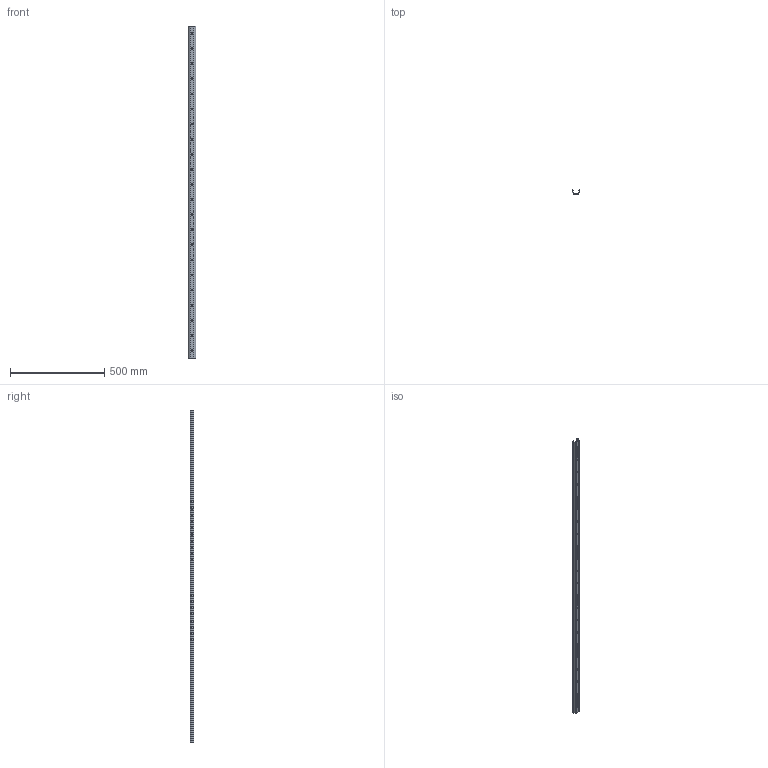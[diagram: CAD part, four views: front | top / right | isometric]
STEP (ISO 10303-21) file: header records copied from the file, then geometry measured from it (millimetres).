
FILE_DESCRIPTION(('STEP AP214'),'1');
FILE_NAME('rail_tex40-1760.stp','2019-03-08T08:33:28',('TraceParts'),('TraceParts S.A.'),'Spatial InterOp 3D',' ',' ');
FILE_SCHEMA(('automotive_design'));
Length unit declared in the file: millimetre
Products named in the file (1): rail_tex40-1760
Bounding box: 39.53 x 21 x 1760 mm (x, y, z)
Volume: 344097.3 mm3; surface area: 242533.9 mm2
Topology: 1 solids, 1 shells, 412 faces, 1068 edges, 712 vertices
Faces by surface type: plane 290, bspline 66, cylinder 56
Entity records: 25973 total; most frequent: CARTESIAN_POINT 12795, ORIENTED_EDGE 2136, DIRECTION 1742, EDGE_CURVE 1068, LINE 824, VECTOR 824, VERTEX_POINT 712, EDGE_LOOP 510
